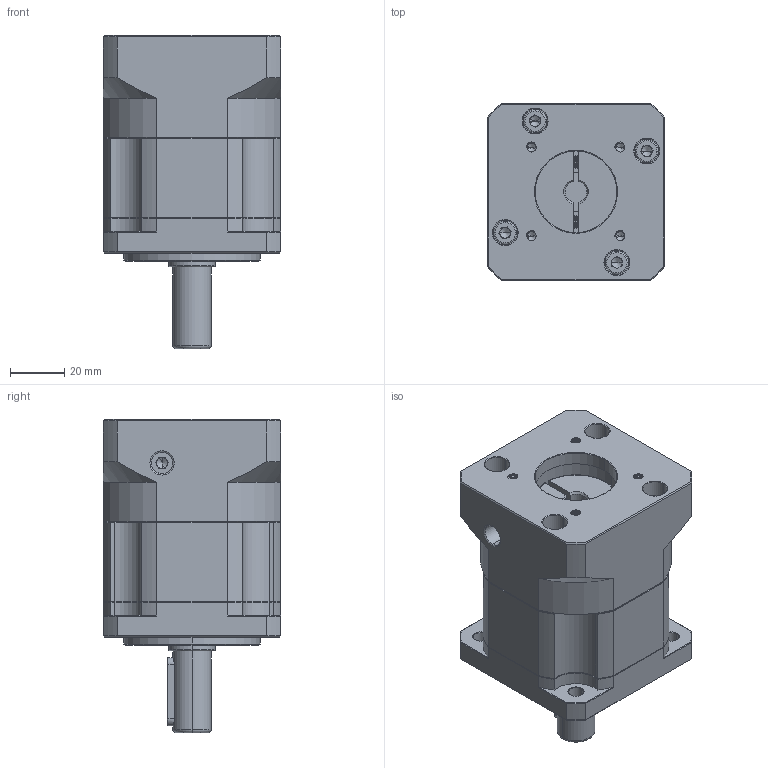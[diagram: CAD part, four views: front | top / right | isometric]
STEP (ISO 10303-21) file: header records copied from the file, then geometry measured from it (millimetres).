
FILE_DESCRIPTION (( 'STEP AP214' ), '1' );
FILE_NAME ('ZB060-D14-L1-P2-8-30-46-M4.step', '2023-08-16T07:00:27', ( '' ), ( '' ), 'SwSTEP 2.0', 'SolidWorks 2016', '' );
FILE_SCHEMA (( 'AUTOMOTIVE_DESIGN' ));
Length unit declared in the file: millimetre
Products named in the file (1): ZB060-D14-L1-P2-8-30-46-M4
Bounding box: 65 x 65 x 115 mm (x, y, z)
Volume: 276392.5 mm3; surface area: 54811.2 mm2
Topology: 6 solids, 6 shells, 2144 faces, 5770 edges, 3714 vertices
Faces by surface type: plane 1059, bspline 397, cylinder 371, cone 281, torus 36
Entity records: 113594 total; most frequent: CARTESIAN_POINT 39297, ORIENTED_EDGE 11480, DIRECTION 9062, EDGE_CURVE 5740, VERTEX_POINT 3714, LINE 3624, VECTOR 3624, AXIS2_PLACEMENT_3D 2719
